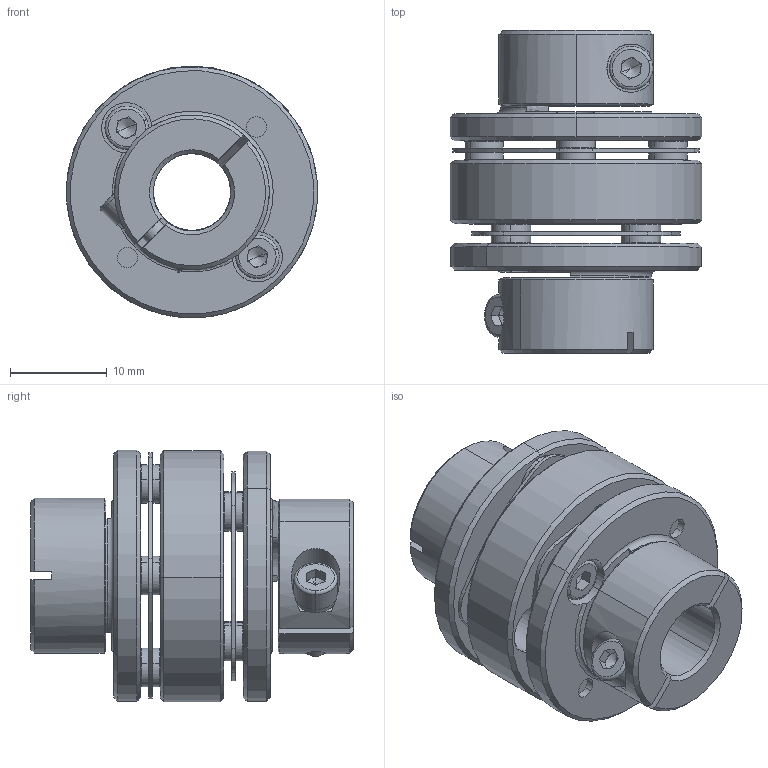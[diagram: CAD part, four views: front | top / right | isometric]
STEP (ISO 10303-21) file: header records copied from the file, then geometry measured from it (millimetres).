
FILE_DESCRIPTION (( 'STEP AP203' ), '1' );
FILE_NAME ('LE2-B-D26L35-8-8.STEP', '2021-11-01T05:49:32', ( '' ), ( '' ), 'SwSTEP 2.0', 'SolidWorks 2018', '' );
FILE_SCHEMA (( 'CONFIG_CONTROL_DESIGN' ));
Length unit declared in the file: millimetre
Products named in the file (1): LE2-B-D26L35-8-8
Bounding box: 26 x 33.4 x 26.06 mm (x, y, z)
Volume: 7397 mm3; surface area: 8289.9 mm2
Topology: 1 solids, 17 shells, 676 faces, 1573 edges, 945 vertices
Faces by surface type: cylinder 227, plane 220, cone 205, torus 24
Entity records: 19513 total; most frequent: DIRECTION 3652, CARTESIAN_POINT 3504, ORIENTED_EDGE 3106, EDGE_CURVE 1553, AXIS2_PLACEMENT_3D 1477, VERTEX_POINT 945, CIRCLE 800, EDGE_LOOP 784
